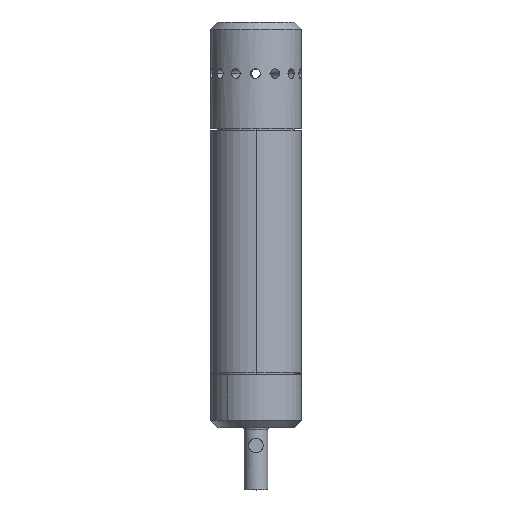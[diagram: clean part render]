
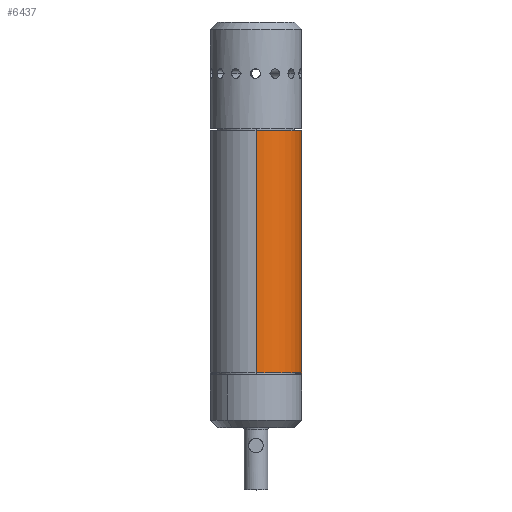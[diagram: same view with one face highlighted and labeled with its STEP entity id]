
A CAD part, top view. The second image highlights one B-rep face of the part: STEP entity #6437.
In plain terms, the highlighted cylindrical face has radius 19 mm (diameter 38 mm), a partial arc.
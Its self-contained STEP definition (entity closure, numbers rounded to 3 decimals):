
#57 = FACE_OUTER_BOUND ( 'NONE', #4528, .T. ) ;
#217 = CARTESIAN_POINT ( 'NONE',  ( 0., 127.5, -19. ) ) ;
#420 = VECTOR ( 'NONE', #1382, 1000. ) ;
#522 = CARTESIAN_POINT ( 'NONE',  ( 0., 112., 0. ) ) ;
#709 = VERTEX_POINT ( 'NONE', #2948 ) ;
#839 = CARTESIAN_POINT ( 'NONE',  ( 0., 127.5, 0. ) ) ;
#1093 = DIRECTION ( 'NONE',  ( 0., 0., 1. ) ) ;
#1099 = EDGE_CURVE ( 'NONE', #709, #4119, #7449, .T. ) ;
#1382 = DIRECTION ( 'NONE',  ( 0., -1., 0. ) ) ;
#1519 = CARTESIAN_POINT ( 'NONE',  ( 0., 11., -19. ) ) ;
#1828 = VERTEX_POINT ( 'NONE', #2591 ) ;
#2591 = CARTESIAN_POINT ( 'NONE',  ( 0., 112., -19. ) ) ;
#2624 = DIRECTION ( 'NONE',  ( 0., -1., 0. ) ) ;
#2718 = ORIENTED_EDGE ( 'NONE', *, *, #3871, .F. ) ;
#2795 = CYLINDRICAL_SURFACE ( 'NONE', #5275, 19. ) ;
#2948 = CARTESIAN_POINT ( 'NONE',  ( 0., 112., 19. ) ) ;
#3183 = LINE ( 'NONE', #217, #420 ) ;
#3422 = CARTESIAN_POINT ( 'NONE',  ( 0., 11., 0. ) ) ;
#3800 = ORIENTED_EDGE ( 'NONE', *, *, #3926, .F. ) ;
#3871 = EDGE_CURVE ( 'NONE', #7450, #4119, #7240, .T. ) ;
#3926 = EDGE_CURVE ( 'NONE', #709, #1828, #6866, .T. ) ;
#4030 = DIRECTION ( 'NONE',  ( 0., 0., -1. ) ) ;
#4035 = DIRECTION ( 'NONE',  ( 0., -1., 0. ) ) ;
#4119 = VERTEX_POINT ( 'NONE', #4872 ) ;
#4420 = DIRECTION ( 'NONE',  ( 0., 0., -1. ) ) ;
#4528 = EDGE_LOOP ( 'NONE', ( #3800, #4756, #2718, #5255 ) ) ;
#4639 = AXIS2_PLACEMENT_3D ( 'NONE', #3422, #7525, #4030 ) ;
#4643 = DIRECTION ( 'NONE',  ( 0., 1., 0. ) ) ;
#4756 = ORIENTED_EDGE ( 'NONE', *, *, #1099, .T. ) ;
#4872 = CARTESIAN_POINT ( 'NONE',  ( 0., 11., 19. ) ) ;
#4911 = EDGE_CURVE ( 'NONE', #1828, #7450, #3183, .T. ) ;
#5255 = ORIENTED_EDGE ( 'NONE', *, *, #4911, .F. ) ;
#5275 = AXIS2_PLACEMENT_3D ( 'NONE', #839, #2624, #4420 ) ;
#5526 = AXIS2_PLACEMENT_3D ( 'NONE', #522, #4643, #1093 ) ;
#6278 = VECTOR ( 'NONE', #4035, 1000. ) ;
#6437 = ADVANCED_FACE ( 'NONE', ( #57 ), #2795, .T. ) ;
#6866 = CIRCLE ( 'NONE', #5526, 19. ) ;
#7240 = CIRCLE ( 'NONE', #4639, 19. ) ;
#7449 = LINE ( 'NONE', #7531, #6278 ) ;
#7450 = VERTEX_POINT ( 'NONE', #1519 ) ;
#7525 = DIRECTION ( 'NONE',  ( 0., -1., 0. ) ) ;
#7531 = CARTESIAN_POINT ( 'NONE',  ( 0., 127.5, 19. ) ) ;
